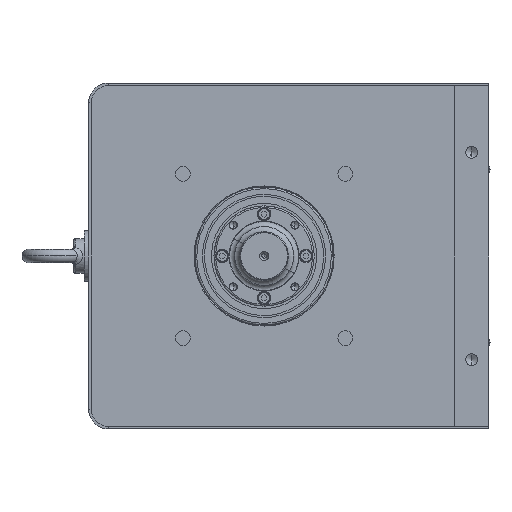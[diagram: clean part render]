
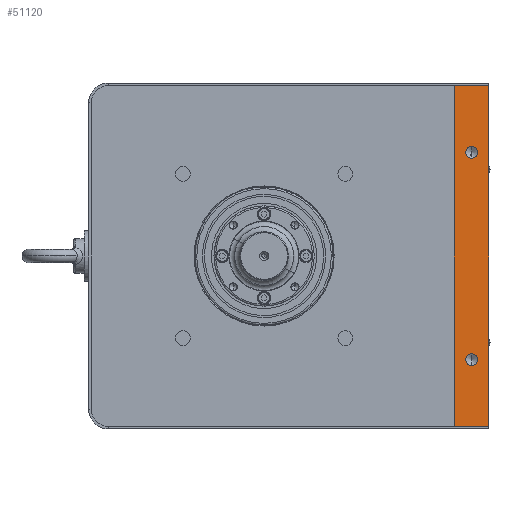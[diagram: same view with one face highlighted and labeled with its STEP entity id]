
A CAD part, left-side view. The second image highlights one B-rep face of the part: STEP entity #51120.
In plain terms, the highlighted planar face has unit normal (-1, 0, 0).
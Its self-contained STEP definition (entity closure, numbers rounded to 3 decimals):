
#771 = DIRECTION ( 'NONE',  ( 0., 0., 1. ) ) ;
#3238 = LINE ( 'NONE', #84072, #202004 ) ;
#3834 = CARTESIAN_POINT ( 'NONE',  ( -23., 20., 98.5 ) ) ;
#8232 = CIRCLE ( 'NONE', #174878, 3.4 ) ;
#12089 = EDGE_CURVE ( 'NONE', #177045, #74349, #142202, .T. ) ;
#14600 = VERTEX_POINT ( 'NONE', #71237 ) ;
#14657 = CARTESIAN_POINT ( 'NONE',  ( -23., 0., 98.5 ) ) ;
#16400 = DIRECTION ( 'NONE',  ( 0., -1., 0. ) ) ;
#22758 = FACE_BOUND ( 'NONE', #91360, .T. ) ;
#23261 = ORIENTED_EDGE ( 'NONE', *, *, #116753, .F. ) ;
#28966 = AXIS2_PLACEMENT_3D ( 'NONE', #161782, #49763, #142190 ) ;
#32365 = CARTESIAN_POINT ( 'NONE',  ( -23., 0., -98.5 ) ) ;
#32415 = ORIENTED_EDGE ( 'NONE', *, *, #12089, .F. ) ;
#40250 = FACE_OUTER_BOUND ( 'NONE', #114311, .T. ) ;
#42620 = DIRECTION ( 'NONE',  ( 0., 0., 1. ) ) ;
#45460 = LINE ( 'NONE', #32365, #218045 ) ;
#46258 = CARTESIAN_POINT ( 'NONE',  ( -23., 10., -63.4 ) ) ;
#49763 = DIRECTION ( 'NONE',  ( 1., 0., 0. ) ) ;
#51120 = ADVANCED_FACE ( 'NONE', ( #22758, #183562, #40250 ), #236159, .F. ) ;
#53772 = EDGE_CURVE ( 'NONE', #195105, #196002, #45460, .T. ) ;
#56882 = EDGE_CURVE ( 'NONE', #14600, #91392, #181547, .T. ) ;
#60552 = EDGE_CURVE ( 'NONE', #74349, #177045, #193725, .T. ) ;
#64107 = ORIENTED_EDGE ( 'NONE', *, *, #53772, .T. ) ;
#71237 = CARTESIAN_POINT ( 'NONE',  ( -23., 20., -98.5 ) ) ;
#73076 = CARTESIAN_POINT ( 'NONE',  ( -23., 10., -60. ) ) ;
#74117 = DIRECTION ( 'NONE',  ( -1., 0., 0. ) ) ;
#74349 = VERTEX_POINT ( 'NONE', #133433 ) ;
#75193 = CARTESIAN_POINT ( 'NONE',  ( -23., 20., -98.5 ) ) ;
#80165 = AXIS2_PLACEMENT_3D ( 'NONE', #73076, #149874, #165457 ) ;
#82194 = VECTOR ( 'NONE', #771, 1000. ) ;
#84072 = CARTESIAN_POINT ( 'NONE',  ( -23., 20., 98.5 ) ) ;
#84846 = CARTESIAN_POINT ( 'NONE',  ( -23., 10., 60. ) ) ;
#90617 = ORIENTED_EDGE ( 'NONE', *, *, #56882, .F. ) ;
#91360 = EDGE_LOOP ( 'NONE', ( #105884, #147884 ) ) ;
#91392 = VERTEX_POINT ( 'NONE', #3834 ) ;
#98504 = ORIENTED_EDGE ( 'NONE', *, *, #60552, .F. ) ;
#102603 = AXIS2_PLACEMENT_3D ( 'NONE', #84846, #160832, #141208 ) ;
#105884 = ORIENTED_EDGE ( 'NONE', *, *, #161397, .F. ) ;
#114311 = EDGE_LOOP ( 'NONE', ( #64107, #23261, #90617, #134106 ) ) ;
#116753 = EDGE_CURVE ( 'NONE', #91392, #196002, #3238, .T. ) ;
#124872 = DIRECTION ( 'NONE',  ( 0., 0., 1. ) ) ;
#126092 = EDGE_LOOP ( 'NONE', ( #98504, #32415 ) ) ;
#133433 = CARTESIAN_POINT ( 'NONE',  ( -23., 10., 63.4 ) ) ;
#134106 = ORIENTED_EDGE ( 'NONE', *, *, #179715, .T. ) ;
#136781 = CARTESIAN_POINT ( 'NONE',  ( -23., 0., -98.5 ) ) ;
#141208 = DIRECTION ( 'NONE',  ( 0., 0., 1. ) ) ;
#141212 = DIRECTION ( 'NONE',  ( 0., -1., 0. ) ) ;
#142190 = DIRECTION ( 'NONE',  ( 0., 0., -1. ) ) ;
#142202 = CIRCLE ( 'NONE', #231383, 3.4 ) ;
#147884 = ORIENTED_EDGE ( 'NONE', *, *, #216184, .F. ) ;
#148085 = CIRCLE ( 'NONE', #80165, 3.4 ) ;
#149874 = DIRECTION ( 'NONE',  ( -1., 0., 0. ) ) ;
#152077 = CARTESIAN_POINT ( 'NONE',  ( -23., 10., -56.6 ) ) ;
#160832 = DIRECTION ( 'NONE',  ( -1., 0., 0. ) ) ;
#161397 = EDGE_CURVE ( 'NONE', #194180, #183154, #8232, .T. ) ;
#161782 = CARTESIAN_POINT ( 'NONE',  ( -23., 20., -98.5 ) ) ;
#165457 = DIRECTION ( 'NONE',  ( 0., 0., 1. ) ) ;
#174878 = AXIS2_PLACEMENT_3D ( 'NONE', #203144, #74117, #224431 ) ;
#177045 = VERTEX_POINT ( 'NONE', #231114 ) ;
#179715 = EDGE_CURVE ( 'NONE', #14600, #195105, #215625, .T. ) ;
#181547 = LINE ( 'NONE', #75193, #82194 ) ;
#183154 = VERTEX_POINT ( 'NONE', #46258 ) ;
#183562 = FACE_BOUND ( 'NONE', #126092, .T. ) ;
#193725 = CIRCLE ( 'NONE', #102603, 3.4 ) ;
#194180 = VERTEX_POINT ( 'NONE', #152077 ) ;
#194614 = DIRECTION ( 'NONE',  ( -1., 0., 0. ) ) ;
#195105 = VERTEX_POINT ( 'NONE', #136781 ) ;
#196002 = VERTEX_POINT ( 'NONE', #14657 ) ;
#202004 = VECTOR ( 'NONE', #141212, 1000. ) ;
#203144 = CARTESIAN_POINT ( 'NONE',  ( -23., 10., -60. ) ) ;
#204253 = CARTESIAN_POINT ( 'NONE',  ( -23., 20., -98.5 ) ) ;
#211783 = CARTESIAN_POINT ( 'NONE',  ( -23., 10., 60. ) ) ;
#215625 = LINE ( 'NONE', #204253, #218662 ) ;
#216184 = EDGE_CURVE ( 'NONE', #183154, #194180, #148085, .T. ) ;
#218045 = VECTOR ( 'NONE', #124872, 1000. ) ;
#218662 = VECTOR ( 'NONE', #16400, 1000. ) ;
#224431 = DIRECTION ( 'NONE',  ( 0., 0., 1. ) ) ;
#231114 = CARTESIAN_POINT ( 'NONE',  ( -23., 10., 56.6 ) ) ;
#231383 = AXIS2_PLACEMENT_3D ( 'NONE', #211783, #194614, #42620 ) ;
#236159 = PLANE ( 'NONE',  #28966 ) ;
